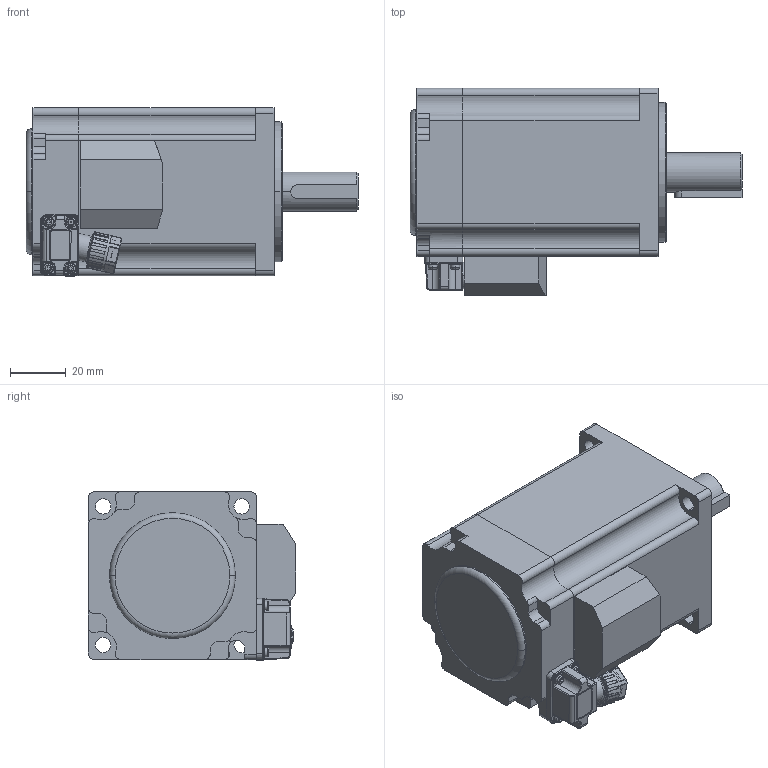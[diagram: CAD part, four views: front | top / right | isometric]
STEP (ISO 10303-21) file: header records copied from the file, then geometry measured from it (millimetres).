
FILE_DESCRIPTION((''),'2;1');
FILE_NAME('60-400W_2_0001_ASM','2026-03-05T17:18:05',('carol'),(''),'CREO PARAMETRIC BY PTC INC, 2020414','CREO PARAMETRIC BY PTC INC, 2020414','');
FILE_SCHEMA(('CONFIG_CONTROL_DESIGN'));
Length unit declared in the file: millimetre
Products named in the file (31): S2; S3; S4_AF0; S1; S5; 60_AF0_ASM; DEET06F03511ZHAF_14_PRT_8; DEET06F03511ZHAF_5_PRT_8; 3_2_2_2_ASM_ASM; DEET06F03511ZHAF_14_PRT_5; DEET06F03511ZHAF_5_PRT_5; 3_2-42149_ASM_ASM; DEET06F03511ZHAF_5_PRT_6; DEET06F03511ZHAF_14_PRT_6; 3_2_2-90405_ASM_ASM; DEET06F03511ZHAF_5_PRT_7; DEET06F03511ZHAF_14_PRT_7; 3_3_2_ASM_ASM; _X2_87BA4E1D_X0_-L7_0_1_1_ASM_ASM; _X2_7F167801566887BA4E1D_X0__1__ASM; 7PIN_1_ASM_ASM; _X2_96F64EF6_X0_1_1_2; MIAO074C9184OOID_17_PRT_P-93235; 7PIN-_X2_963262A476D6_X0__ASM_1_ASM; 7P_______22-8-20_STP_ASM_1_ASM_ASM; 7P__1_ASM_ASM; _202405220001; 7P001; 2_ASM; 001_A_ASM; 60-400W_2_0001_ASM
Assembly tree (30 placements, depth 9):
  60-400W_2_0001_ASM
    001_A_ASM
      60_AF0_ASM
        S2
        S3
        S4_AF0
        S1
        S5
      2_ASM
        7P__1_ASM_ASM
          7PIN_1_ASM_ASM
            _X2_7F167801566887BA4E1D_X0__1__ASM
              _X2_87BA4E1D_X0_-L7_0_1_1_ASM_ASM
                3_2_2_2_ASM_ASM
                  DEET06F03511ZHAF_14_PRT_8
                  DEET06F03511ZHAF_5_PRT_8
                3_2-42149_ASM_ASM
                  DEET06F03511ZHAF_14_PRT_5
                  DEET06F03511ZHAF_5_PRT_5
                3_2_2-90405_ASM_ASM
                  DEET06F03511ZHAF_5_PRT_6
                  DEET06F03511ZHAF_14_PRT_6
                3_3_2_ASM_ASM
                  DEET06F03511ZHAF_5_PRT_7
                  DEET06F03511ZHAF_14_PRT_7
          _X2_96F64EF6_X0_1_1_2
          7P_______22-8-20_STP_ASM_1_ASM_ASM
            7PIN-_X2_963262A476D6_X0__ASM_1_ASM
              MIAO074C9184OOID_17_PRT_P-93235
        _202405220001
        7P001
Bounding box: 118.6 x 74 x 60.23 mm (x, y, z)
Volume: 306380.1 mm3; surface area: 48615.6 mm2
Topology: 17 solids, 17 shells, 1161 faces, 3304 edges, 2218 vertices
Faces by surface type: plane 427, cylinder 406, cone 153, torus 122, bspline 47, sphere 6
Entity records: 45135 total; most frequent: CARTESIAN_POINT 14117, ORIENTED_EDGE 6604, DIRECTION 6440, EDGE_CURVE 3302, AXIS2_PLACEMENT_3D 2590, VERTEX_POINT 2218, CIRCLE 1386, VECTOR 1260
